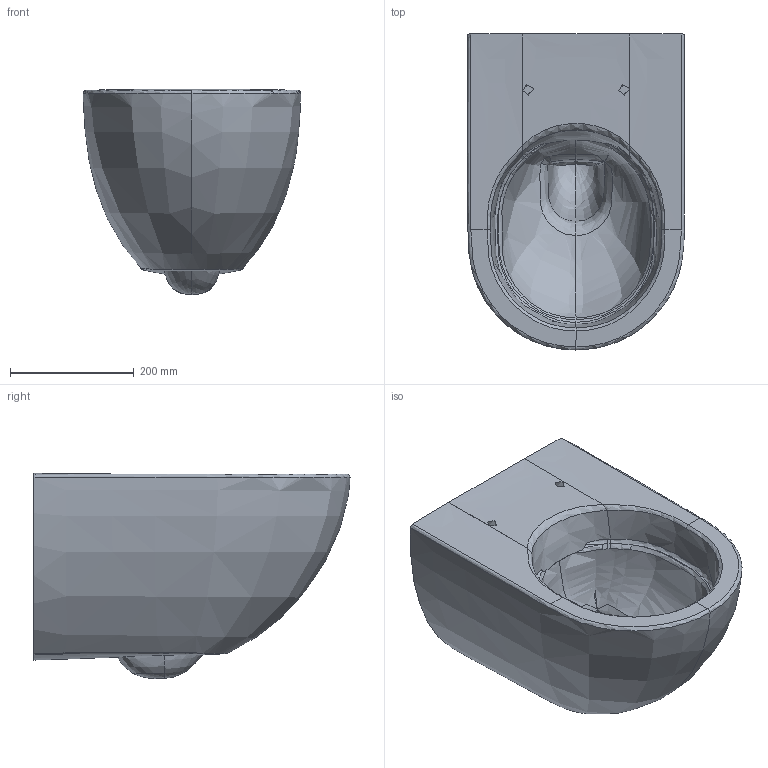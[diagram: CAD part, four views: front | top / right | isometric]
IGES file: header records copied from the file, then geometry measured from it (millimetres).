
Global section: file name: 500600; native system: Autodesk Inventor 2018; preprocessor: unknown; author: JANAN; date: 20200224.081225; units: millimetre
Bounding box: 350.68 x 509.95 x 331.1 mm (x, y, z)
Volume: 27160562.3 mm3; surface area: 769912.2 mm2
Topology: 1 solids, 1 shells, 100 faces, 251 edges, 148 vertices
Faces by surface type: bspline 100
